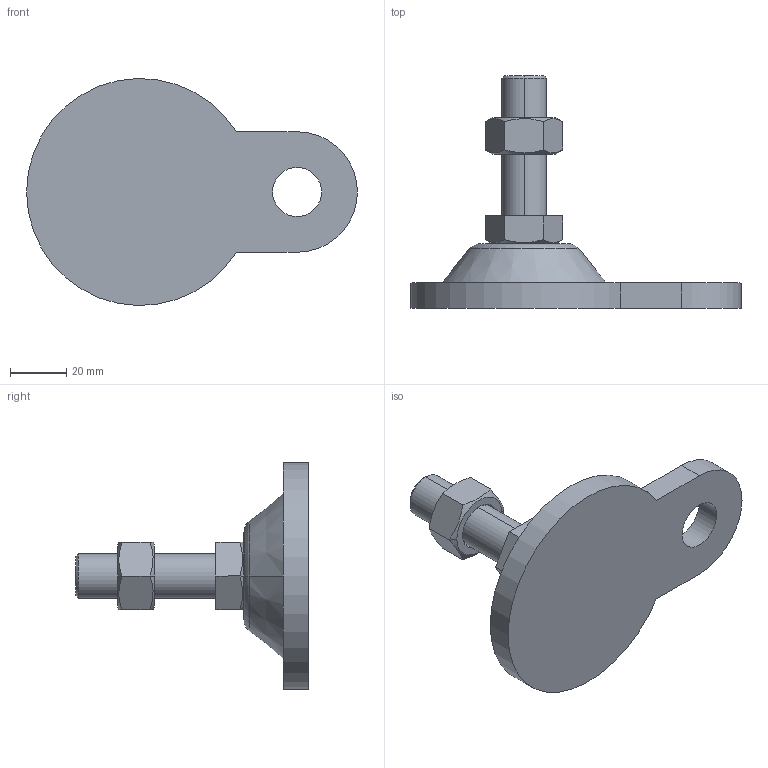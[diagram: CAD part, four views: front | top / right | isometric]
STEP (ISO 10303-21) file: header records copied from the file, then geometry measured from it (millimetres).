
FILE_DESCRIPTION (( 'STEP AP214' ), '1' );
FILE_NAME ('ARB81-M16-50.step', '2021-01-07T07:17:47', ( '' ), ( '' ), 'SwSTEP 2.0', 'SolidWorks 2019', '' );
FILE_SCHEMA (( 'AUTOMOTIVE_DESIGN' ));
Length unit declared in the file: millimetre
Products named in the file (1): ARB81-M16-50
Bounding box: 118 x 83 x 80.98 mm (x, y, z)
Volume: 101408 mm3; surface area: 23585 mm2
Topology: 3 solids, 3 shells, 46 faces, 100 edges, 62 vertices
Faces by surface type: plane 22, cone 14, cylinder 8, torus 2
Entity records: 1470 total; most frequent: CARTESIAN_POINT 407, DIRECTION 212, ORIENTED_EDGE 200, EDGE_CURVE 100, AXIS2_PLACEMENT_3D 83, VERTEX_POINT 62, EDGE_LOOP 52, FACE_OUTER_BOUND 46
